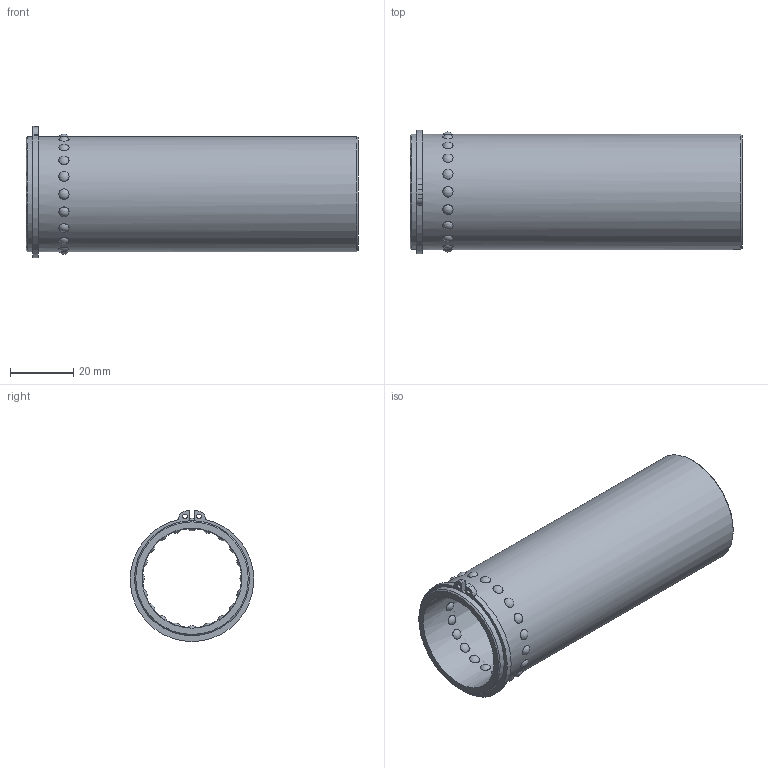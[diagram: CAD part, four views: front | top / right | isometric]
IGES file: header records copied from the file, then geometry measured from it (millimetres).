
Global section: file name: GSA30105.ipt; native system: Autodesk Inventor 2021; preprocessor: unknown; author: SM; date: 20211222.120743; units: millimetre
Bounding box: 105 x 39.09 x 41.48 mm (x, y, z)
Volume: 27326.3 mm3; surface area: 23935.8 mm2
Topology: 2 solids, 2 shells, 64 faces, 100 edges, 80 vertices
Faces by surface type: sphere 40, plane 12, cylinder 6, revolution 4, cone 2
Full cylindrical faces by diameter (mm): 35.4 x1, 36.4 x2
